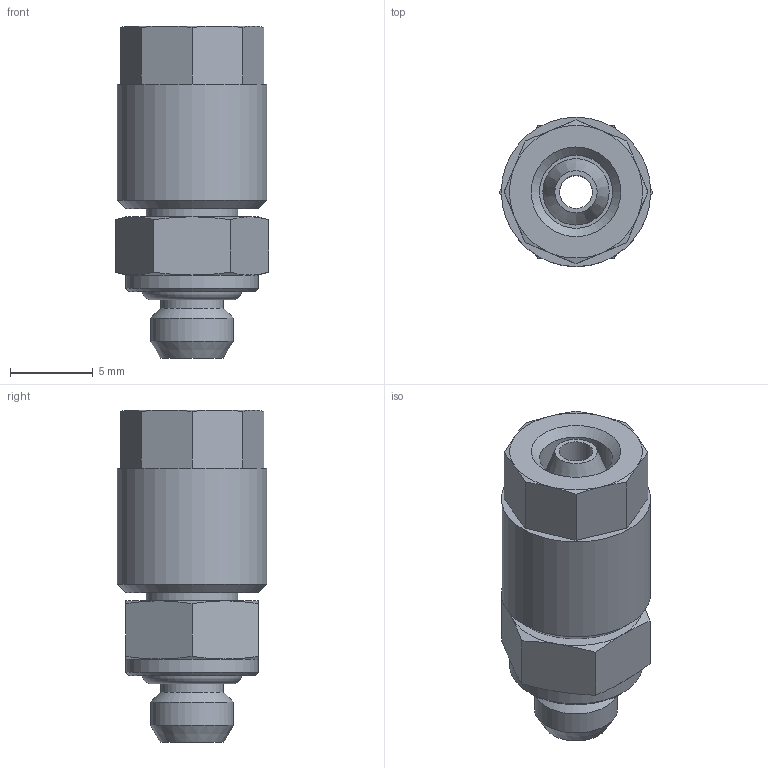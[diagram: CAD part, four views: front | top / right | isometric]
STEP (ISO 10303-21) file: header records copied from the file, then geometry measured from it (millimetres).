
FILE_DESCRIPTION(/* description */ (''),/* implementation_level */ '2;1');
FILE_NAME(/* name */ '10203_301Z_4.3_3_M5_16.02.2017',/* time_stamp */ '2017-02-16T11:18:24+01:00',/* author */ (''),/* organization */ (''),/* preprocessor_version */ 'ST-DEVELOPER v16.5',/* originating_system */ 'HiCAD 2016 2102.1 Build 498',/* authorisation */ '');
FILE_SCHEMA (('AUTOMOTIVE_DESIGN { 1 0 10303 214 1 1 1 1 }'));
Length unit declared in the file: millimetre
Products named in the file (4): Root; OR 4X1.2; R10202; 17002
Assembly tree (3 placements, depth 2):
  Root
    OR 4X1.2
    R10202
    17002
Bounding box: 9.24 x 9 x 20 mm (x, y, z)
Volume: 909.1 mm3; surface area: 1232.7 mm2
Topology: 3 solids, 3 shells, 69 faces, 155 edges, 96 vertices
Faces by surface type: cone 31, plane 24, cylinder 10, torus 4
Full cylindrical faces by diameter (mm): 2 x1, 3.7 x1, 3.8 x1, 4.4 x1, 5 x1, 5.5 x1, 6.08 x1, 7 x1, 8 x1, 9 x1
Entity records: 2907 total; most frequent: DIRECTION 356, CARTESIAN_POINT 269, PRESENTATION_STYLE_ASSIGNMENT 231, COLOUR_RGB 230, DRAUGHTING_PRE_DEFINED_CURVE_FONT 228, CURVE_STYLE 228, OVER_RIDING_STYLED_ITEM 228, ORIENTED_EDGE 228
